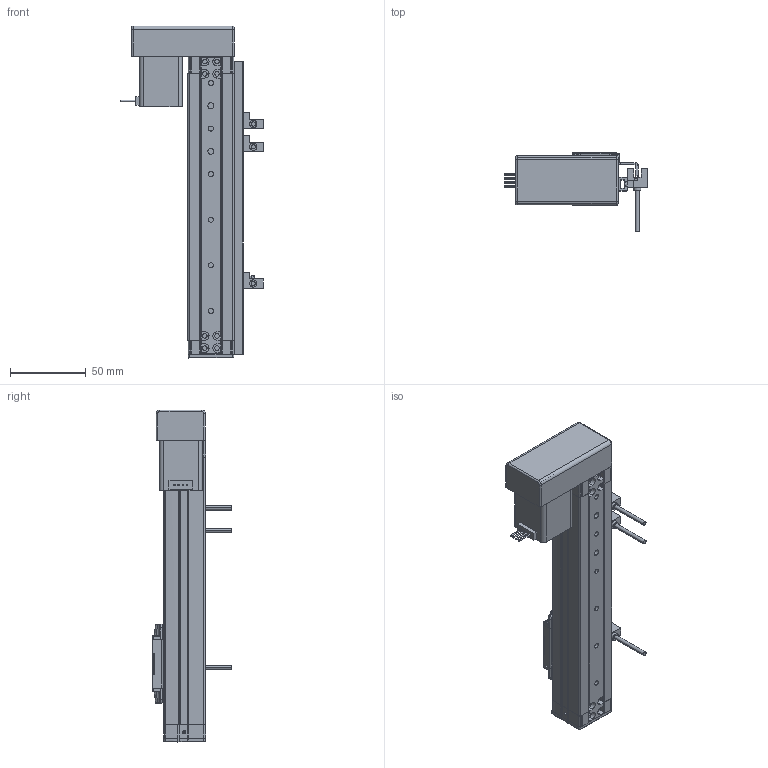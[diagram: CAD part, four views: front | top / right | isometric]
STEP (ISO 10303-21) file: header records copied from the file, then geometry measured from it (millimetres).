
FILE_DESCRIPTION (( 'STEP AP203' ), '1' );
FILE_NAME ('PES030LON-0601-ST100-28NN00-N-I3R.STEP', '2015-10-06T06:02:18', ( '' ), ( '' ), 'SwSTEP 2.0', 'SolidWorks 2012', '' );
FILE_SCHEMA (( 'CONFIG_CONTROL_DESIGN' ));
Length unit declared in the file: millimetre
Products named in the file (13): PES030-Sensor Dog; PM-L24; PES030-Front Plate Cover; NEMA 11; PES030-Carrier END COVER; PES030-Front Plate; PES030-Carrier UPPER Cover; PES030-Carrier; PES030-Lm Guide S 100ST; PES030-Free Bearing; PES030-Fix Bearing P; PES030LON-0601-ST100-28NN00-N-I3R; PES030-END COVER(Tail)
Assembly tree (15 placements, depth 2):
  PES030LON-0601-ST100-28NN00-N-I3R
    PES030-Fix Bearing P
    PES030-Lm Guide S 100ST
    PES030-Free Bearing
    PES030-Carrier
    PES030-Carrier UPPER Cover
    PES030-Carrier END COVER  x2
    PES030-Front Plate
    NEMA 11
    PES030-Front Plate Cover
    PM-L24  x3
    PES030-Sensor Dog
    PES030-END COVER(Tail)
Bounding box: 94.1 x 51.8 x 218.51 mm (x, y, z)
Volume: 113323.1 mm3; surface area: 97764.7 mm2
Topology: 18 solids, 18 shells, 1218 faces, 3259 edges, 2098 vertices
Faces by surface type: plane 577, cylinder 466, bspline 104, cone 65, torus 6
Entity records: 37843 total; most frequent: CARTESIAN_POINT 10046, ORIENTED_EDGE 5658, DIRECTION 5329, EDGE_CURVE 2829, VERTEX_POINT 1838, AXIS2_PLACEMENT_3D 1823, LINE 1683, VECTOR 1683
